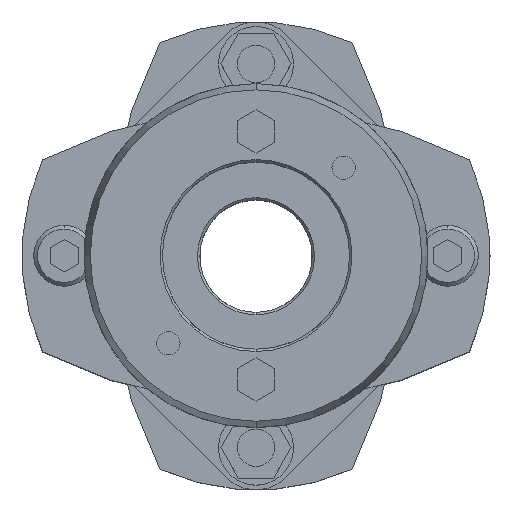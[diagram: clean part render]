
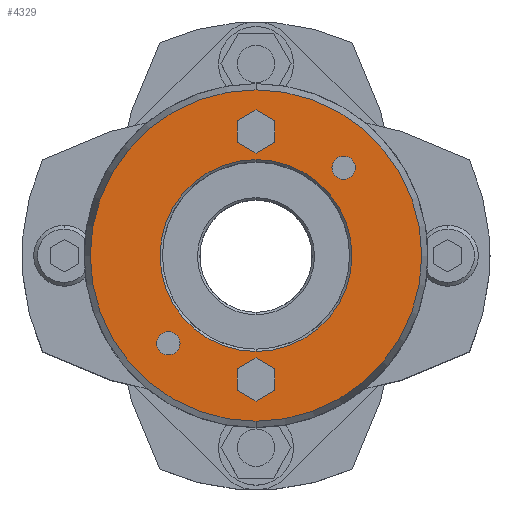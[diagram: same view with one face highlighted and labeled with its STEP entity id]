
A CAD part, top view. The second image highlights one B-rep face of the part: STEP entity #4329.
In plain terms, the highlighted planar face has unit normal (0, 0, 1).
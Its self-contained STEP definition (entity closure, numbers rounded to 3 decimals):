
#2291=CARTESIAN_POINT('',(0.,20.5,55.5));
#2292=VERTEX_POINT('',#2291);
#2308=CARTESIAN_POINT('',(0.,-20.5,55.5));
#2309=VERTEX_POINT('',#2308);
#2316=CARTESIAN_POINT('',(0.,0.,55.5));
#2317=DIRECTION('',(0.0,0.0,1.0));
#2318=DIRECTION('',(0.0,1.0,0.0));
#2319=AXIS2_PLACEMENT_3D('',#2316,#2317,#2318);
#2320=CIRCLE('',#2319,20.5);
#2321=EDGE_CURVE('',#2309,#2292,#2320,.T.);
#2437=CARTESIAN_POINT('',(0.,-35.41,55.5));
#2438=VERTEX_POINT('',#2437);
#2447=CARTESIAN_POINT('',(0.,35.41,55.5));
#2448=VERTEX_POINT('',#2447);
#2449=CARTESIAN_POINT('',(0.,0.,55.5));
#2450=DIRECTION('',(0.0,0.0,-1.0));
#2451=DIRECTION('',(0.0,-1.0,0.0));
#2452=AXIS2_PLACEMENT_3D('',#2449,#2450,#2451);
#2453=CIRCLE('',#2452,35.41);
#2454=EDGE_CURVE('',#2438,#2448,#2453,.T.);
#2623=CARTESIAN_POINT('',(18.738,21.238,55.5));
#2624=VERTEX_POINT('',#2623);
#2640=CARTESIAN_POINT('',(18.738,16.238,55.5));
#2641=VERTEX_POINT('',#2640);
#2648=CARTESIAN_POINT('',(18.738,18.738,55.5));
#2649=DIRECTION('',(0.0,0.0,-1.0));
#2650=DIRECTION('',(0.0,1.0,0.0));
#2651=AXIS2_PLACEMENT_3D('',#2648,#2649,#2650);
#2652=CIRCLE('',#2651,2.5);
#2653=EDGE_CURVE('',#2624,#2641,#2652,.T.);
#2665=CARTESIAN_POINT('',(-18.738,-16.238,55.5));
#2666=VERTEX_POINT('',#2665);
#2682=CARTESIAN_POINT('',(-18.738,-21.238,55.5));
#2683=VERTEX_POINT('',#2682);
#2690=CARTESIAN_POINT('',(-18.738,-18.738,55.5));
#2691=DIRECTION('',(0.0,0.0,-1.0));
#2692=DIRECTION('',(0.0,1.0,0.0));
#2693=AXIS2_PLACEMENT_3D('',#2690,#2691,#2692);
#2694=CIRCLE('',#2693,2.5);
#2695=EDGE_CURVE('',#2666,#2683,#2694,.T.);
#3455=CARTESIAN_POINT('',(0.,-21.881,55.5));
#3456=VERTEX_POINT('',#3455);
#3463=CARTESIAN_POINT('',(-4.,-24.191,55.5));
#3464=VERTEX_POINT('',#3463);
#3465=CARTESIAN_POINT('',(-4.,-24.191,55.5));
#3466=DIRECTION('',(0.866,0.5,0.0));
#3467=VECTOR('',#3466,4.619);
#3468=LINE('',#3465,#3467);
#3469=EDGE_CURVE('',#3464,#3456,#3468,.T.);
#3493=CARTESIAN_POINT('',(4.,-24.191,55.5));
#3494=VERTEX_POINT('',#3493);
#3501=CARTESIAN_POINT('',(0.,-21.881,55.5));
#3502=DIRECTION('',(0.866,-0.5,0.0));
#3503=VECTOR('',#3502,4.619);
#3504=LINE('',#3501,#3503);
#3505=EDGE_CURVE('',#3456,#3494,#3504,.T.);
#3524=CARTESIAN_POINT('',(4.,-28.809,55.5));
#3525=VERTEX_POINT('',#3524);
#3532=CARTESIAN_POINT('',(4.,-24.191,55.5));
#3533=DIRECTION('',(0.0,-1.0,0.0));
#3534=VECTOR('',#3533,4.619);
#3535=LINE('',#3532,#3534);
#3536=EDGE_CURVE('',#3494,#3525,#3535,.T.);
#3555=CARTESIAN_POINT('',(0.,-31.119,55.5));
#3556=VERTEX_POINT('',#3555);
#3563=CARTESIAN_POINT('',(4.,-28.809,55.5));
#3564=DIRECTION('',(-0.866,-0.5,0.0));
#3565=VECTOR('',#3564,4.619);
#3566=LINE('',#3563,#3565);
#3567=EDGE_CURVE('',#3525,#3556,#3566,.T.);
#3586=CARTESIAN_POINT('',(-4.,-28.809,55.5));
#3587=VERTEX_POINT('',#3586);
#3594=CARTESIAN_POINT('',(0.,-31.119,55.5));
#3595=DIRECTION('',(-0.866,0.5,0.0));
#3596=VECTOR('',#3595,4.619);
#3597=LINE('',#3594,#3596);
#3598=EDGE_CURVE('',#3556,#3587,#3597,.T.);
#3616=CARTESIAN_POINT('',(-4.,-28.809,55.5));
#3617=DIRECTION('',(0.0,1.0,0.0));
#3618=VECTOR('',#3617,4.619);
#3619=LINE('',#3616,#3618);
#3620=EDGE_CURVE('',#3587,#3464,#3619,.T.);
#3655=CARTESIAN_POINT('',(0.,31.119,55.5));
#3656=VERTEX_POINT('',#3655);
#3663=CARTESIAN_POINT('',(-4.,28.809,55.5));
#3664=VERTEX_POINT('',#3663);
#3665=CARTESIAN_POINT('',(-4.,28.809,55.5));
#3666=DIRECTION('',(0.866,0.5,0.0));
#3667=VECTOR('',#3666,4.619);
#3668=LINE('',#3665,#3667);
#3669=EDGE_CURVE('',#3664,#3656,#3668,.T.);
#3693=CARTESIAN_POINT('',(4.,28.809,55.5));
#3694=VERTEX_POINT('',#3693);
#3701=CARTESIAN_POINT('',(0.,31.119,55.5));
#3702=DIRECTION('',(0.866,-0.5,0.0));
#3703=VECTOR('',#3702,4.619);
#3704=LINE('',#3701,#3703);
#3705=EDGE_CURVE('',#3656,#3694,#3704,.T.);
#3724=CARTESIAN_POINT('',(4.,24.191,55.5));
#3725=VERTEX_POINT('',#3724);
#3732=CARTESIAN_POINT('',(4.,28.809,55.5));
#3733=DIRECTION('',(0.0,-1.0,0.0));
#3734=VECTOR('',#3733,4.619);
#3735=LINE('',#3732,#3734);
#3736=EDGE_CURVE('',#3694,#3725,#3735,.T.);
#3755=CARTESIAN_POINT('',(0.,21.881,55.5));
#3756=VERTEX_POINT('',#3755);
#3763=CARTESIAN_POINT('',(4.,24.191,55.5));
#3764=DIRECTION('',(-0.866,-0.5,0.0));
#3765=VECTOR('',#3764,4.619);
#3766=LINE('',#3763,#3765);
#3767=EDGE_CURVE('',#3725,#3756,#3766,.T.);
#3786=CARTESIAN_POINT('',(-4.,24.191,55.5));
#3787=VERTEX_POINT('',#3786);
#3794=CARTESIAN_POINT('',(0.,21.881,55.5));
#3795=DIRECTION('',(-0.866,0.5,0.0));
#3796=VECTOR('',#3795,4.619);
#3797=LINE('',#3794,#3796);
#3798=EDGE_CURVE('',#3756,#3787,#3797,.T.);
#3816=CARTESIAN_POINT('',(-4.,24.191,55.5));
#3817=DIRECTION('',(0.0,1.0,0.0));
#3818=VECTOR('',#3817,4.619);
#3819=LINE('',#3816,#3818);
#3820=EDGE_CURVE('',#3787,#3664,#3819,.T.);
#3846=CARTESIAN_POINT('',(-18.738,-18.738,55.5));
#3847=DIRECTION('',(0.0,0.0,-1.0));
#3848=DIRECTION('',(0.0,1.0,0.0));
#3849=AXIS2_PLACEMENT_3D('',#3846,#3847,#3848);
#3850=CIRCLE('',#3849,2.5);
#3851=EDGE_CURVE('',#2683,#2666,#3850,.T.);
#3880=CARTESIAN_POINT('',(18.738,18.738,55.5));
#3881=DIRECTION('',(0.0,0.0,-1.0));
#3882=DIRECTION('',(0.0,1.0,0.0));
#3883=AXIS2_PLACEMENT_3D('',#3880,#3881,#3882);
#3884=CIRCLE('',#3883,2.5);
#3885=EDGE_CURVE('',#2641,#2624,#3884,.T.);
#4276=CARTESIAN_POINT('',(0.,0.,55.5));
#4277=DIRECTION('',(0.0,0.0,-1.0));
#4278=DIRECTION('',(0.0,-1.0,0.0));
#4279=AXIS2_PLACEMENT_3D('',#4276,#4277,#4278);
#4280=CIRCLE('',#4279,35.41);
#4281=EDGE_CURVE('',#2448,#2438,#4280,.T.);
#4286=CARTESIAN_POINT('',(0.,3.341,55.5));
#4287=DIRECTION('',(0.0,0.0,1.0));
#4288=DIRECTION('',(0.0,1.0,0.0));
#4289=AXIS2_PLACEMENT_3D('',#4286,#4287,#4288);
#4290=PLANE('',#4289);
#4291=ORIENTED_EDGE('',*,*,#4281,.F.);
#4292=ORIENTED_EDGE('',*,*,#2454,.F.);
#4293=EDGE_LOOP('',(#4291,#4292));
#4294=FACE_OUTER_BOUND('',#4293,.T.);
#4295=ORIENTED_EDGE('',*,*,#3469,.T.);
#4296=ORIENTED_EDGE('',*,*,#3505,.T.);
#4297=ORIENTED_EDGE('',*,*,#3536,.T.);
#4298=ORIENTED_EDGE('',*,*,#3567,.T.);
#4299=ORIENTED_EDGE('',*,*,#3598,.T.);
#4300=ORIENTED_EDGE('',*,*,#3620,.T.);
#4301=EDGE_LOOP('',(#4295,#4296,#4297,#4298,#4299,#4300));
#4302=FACE_BOUND('',#4301,.T.);
#4303=ORIENTED_EDGE('',*,*,#3669,.T.);
#4304=ORIENTED_EDGE('',*,*,#3705,.T.);
#4305=ORIENTED_EDGE('',*,*,#3736,.T.);
#4306=ORIENTED_EDGE('',*,*,#3767,.T.);
#4307=ORIENTED_EDGE('',*,*,#3798,.T.);
#4308=ORIENTED_EDGE('',*,*,#3820,.T.);
#4309=EDGE_LOOP('',(#4303,#4304,#4305,#4306,#4307,#4308));
#4310=FACE_BOUND('',#4309,.T.);
#4311=ORIENTED_EDGE('',*,*,#2695,.T.);
#4312=ORIENTED_EDGE('',*,*,#3851,.T.);
#4313=EDGE_LOOP('',(#4311,#4312));
#4314=FACE_BOUND('',#4313,.T.);
#4315=ORIENTED_EDGE('',*,*,#2653,.T.);
#4316=ORIENTED_EDGE('',*,*,#3885,.T.);
#4317=EDGE_LOOP('',(#4315,#4316));
#4318=FACE_BOUND('',#4317,.T.);
#4319=ORIENTED_EDGE('',*,*,#2321,.F.);
#4320=CARTESIAN_POINT('',(0.,0.,55.5));
#4321=DIRECTION('',(0.0,0.0,1.0));
#4322=DIRECTION('',(0.0,1.0,0.0));
#4323=AXIS2_PLACEMENT_3D('',#4320,#4321,#4322);
#4324=CIRCLE('',#4323,20.5);
#4325=EDGE_CURVE('',#2292,#2309,#4324,.T.);
#4326=ORIENTED_EDGE('',*,*,#4325,.F.);
#4327=EDGE_LOOP('',(#4319,#4326));
#4328=FACE_BOUND('',#4327,.T.);
#4329=ADVANCED_FACE('',(#4294,#4302,#4310,#4314,#4318,#4328),#4290,.T.);
